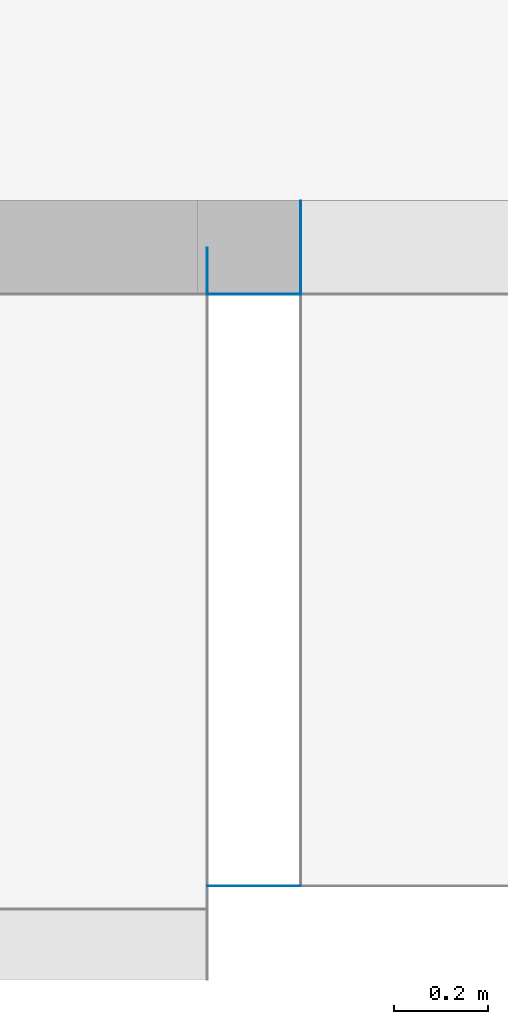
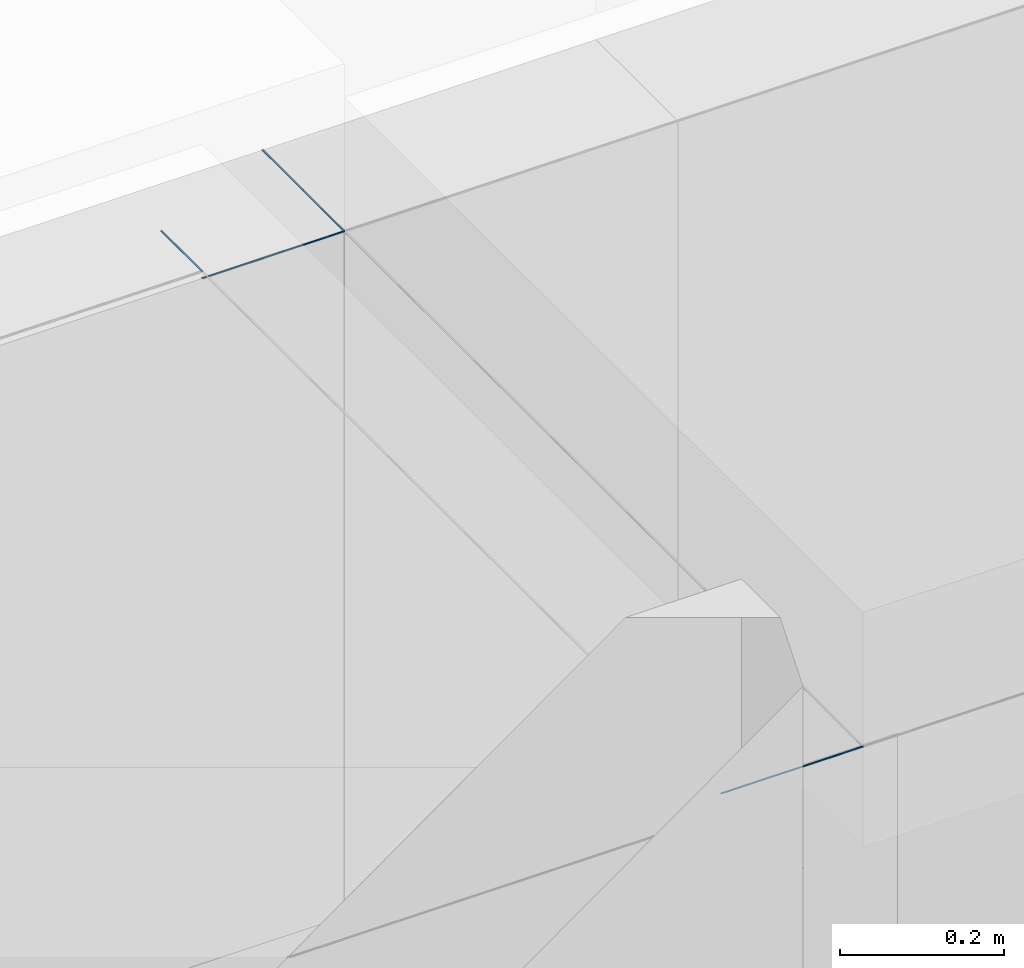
# One storey, part 3 of 17: 5 beams.
"""IFC2X3 building model written with IfcOpenShell, lengths in metres."""

from ifc_helpers import new_model, si_unit, direction, frame, origin_with_axes, place, context, subcontext, project, spatial, polyline, outline, extrude, material, type_object, element, save


model = new_model("IFC2X3")

# Units and contexts
model_context = context("Model", 3, precision=0.0001, world=origin_with_axes(), true_north=direction((0.0, 1.0)))
plan_context = context("Plan", 2, precision=0.0001, world=origin_with_axes(), true_north=direction((0.0, 1.0)))
body_context = subcontext(model_context, "Body", "Model", "MODEL_VIEW")
ifc_project = project(units=[si_unit("MASSUNIT", "GRAM", prefix="KILO"), si_unit("AREAUNIT", "SQUARE_METRE"), si_unit("LENGTHUNIT", "METRE"), si_unit("VOLUMEUNIT", "CUBIC_METRE")], contexts=[plan_context, model_context])

# Site, building, storey
site_placement = place(None, origin_with_axes())
site = spatial("IfcSite", under=ifc_project, at=site_placement, Name="$", CompositionType="ELEMENT")
building_placement = place(site_placement, origin_with_axes())
building = spatial("IfcBuilding", under=site, at=building_placement, Name="Classeur ENS Ensemble", CompositionType="ELEMENT")
storey_placement = place(building_placement, frame((-20.30778888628, -1.812671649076, 0.0), z_axis=(0.0, 0.0, 1.0), x_axis=(1.0, 0.0, 0.0)))
storey = spatial("IfcBuildingStorey", under=building, at=storey_placement, Name="001 RdC", CompositionType="ELEMENT", Elevation=0.0)

# Beams
ifc_material = material(Name="Default material")
beam_type = type_object("IfcBeamType", PredefinedType="BEAM")
beam_1_placement = place(storey_placement, frame((23.6132953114, -11.66732835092, 3.059999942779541), z_axis=(0.0, 0.0, 1.0), x_axis=(0.0, 1.0, 0.0)))
element("IfcBeam", 1, at=beam_1_placement, inside=storey, type_object=beam_type, material=ifc_material, Name="poutre fictive 306", context=body_context, shape_type="SweptSolid", held_by="IfcProductRepresentation", body=[
    extrude(outline(polyline([(0.0, 0.001000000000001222), (0.0, 0.001000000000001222), (0.0, 0.001000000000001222), (0.09999999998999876, 0.001000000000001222), (0.09999999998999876, 0.001000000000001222), (0.09999999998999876, 0.001000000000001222), (0.09999999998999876, -0.0009999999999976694), (0.09999999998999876, -0.0009999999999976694), (0.09999999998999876, -0.0009999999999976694), (0.0, -0.0009999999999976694), (0.0, -0.0009999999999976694), (0.0, -0.0009999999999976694), (0.0, 0.001000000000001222)])), origin_with_axes(), (0.0, 0.0, 1.0), 0.001),
])
beam_2_placement = place(storey_placement, frame((23.8132953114, -11.66732835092, 3.049999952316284), z_axis=(0.0, 0.0, 1.0), x_axis=(0.0, 1.0, 0.0)))
element("IfcBeam", 2, at=beam_2_placement, inside=storey, type_object=beam_type, material=ifc_material, Name="poutre fictive 305", context=body_context, shape_type="SweptSolid", held_by="IfcProductRepresentation", body=[
    extrude(outline(polyline([(0.0, 0.001000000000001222), (0.0, 0.001000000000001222), (0.0, 0.001000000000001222), (0.09999999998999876, 0.001000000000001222), (0.09999999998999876, 0.001000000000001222), (0.09999999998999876, 0.001000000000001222), (0.09999999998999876, -0.001000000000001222), (0.09999999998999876, -0.001000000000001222), (0.09999999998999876, -0.001000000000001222), (0.0, -0.001000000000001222), (0.0, -0.001000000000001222), (0.0, -0.001000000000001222), (0.0, 0.001000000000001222)])), origin_with_axes(), (0.0, 0.0, 1.0), 0.001),
])
beam_3_placement = place(storey_placement, frame((23.6132953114, -12.93232835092, 3.049999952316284), z_axis=(0.0, 0.0, 1.0), x_axis=(1.0, 0.0, 0.0)))
element("IfcBeam", 3, at=beam_3_placement, inside=storey, type_object=beam_type, material=ifc_material, Name="poutre fictive 305", context=body_context, shape_type="SweptSolid", held_by="IfcProductRepresentation", body=[
    extrude(outline(polyline([(0.0, 0.0009999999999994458), (0.0, 0.0009999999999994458), (0.0, 0.0009999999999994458), (0.1999999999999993, 0.0009999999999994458), (0.1999999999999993, 0.0009999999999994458), (0.1999999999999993, 0.0009999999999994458), (0.1999999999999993, -0.0009999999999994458), (0.1999999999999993, -0.0009999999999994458), (0.1999999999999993, -0.0009999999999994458), (0.0, -0.0009999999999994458), (0.0, -0.0009999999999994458), (0.0, -0.0009999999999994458), (0.0, 0.0009999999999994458)])), origin_with_axes(), (0.0, 0.0, 1.0), 0.001),
])
beam_4_placement = place(storey_placement, frame((23.6132953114, -11.66732835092, 3.049999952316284), z_axis=(0.0, 0.0, 1.0), x_axis=(1.0, 0.0, 0.0)))
element("IfcBeam", 4, at=beam_4_placement, inside=storey, type_object=beam_type, material=ifc_material, Name="poutre fictive 305", context=body_context, shape_type="SweptSolid", held_by="IfcProductRepresentation", body=[
    extrude(outline(polyline([(0.0, 0.0009999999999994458), (0.0, 0.0009999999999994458), (0.0, 0.0009999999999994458), (0.1999999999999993, 0.0009999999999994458), (0.1999999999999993, 0.0009999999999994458), (0.1999999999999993, 0.0009999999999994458), (0.1999999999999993, -0.001000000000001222), (0.1999999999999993, -0.001000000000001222), (0.1999999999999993, -0.001000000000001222), (0.0, -0.001000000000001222), (0.0, -0.001000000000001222), (0.0, -0.001000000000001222), (0.0, 0.0009999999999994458)])), origin_with_axes(), (0.0, 0.0, 1.0), 0.001),
])
beam_5_placement = place(storey_placement, frame((23.8132953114, -11.56732835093, 3.049999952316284), z_axis=(0.0, 0.0, 1.0), x_axis=(0.0, 1.0, 0.0)))
element("IfcBeam", 5, at=beam_5_placement, inside=storey, type_object=beam_type, material=ifc_material, Name="poutre fictive 305", context=body_context, shape_type="SweptSolid", held_by="IfcProductRepresentation", body=[
    extrude(outline(polyline([(0.0, 0.001000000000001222), (0.0, 0.001000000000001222), (0.0, 0.001000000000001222), (0.1000000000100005, 0.001000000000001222), (0.1000000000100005, 0.001000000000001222), (0.1000000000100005, 0.001000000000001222), (0.1000000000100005, -0.001000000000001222), (0.1000000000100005, -0.001000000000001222), (0.1000000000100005, -0.001000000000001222), (0.0, -0.001000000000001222), (0.0, -0.001000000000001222), (0.0, -0.001000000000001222), (0.0, 0.001000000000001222)])), origin_with_axes(), (0.0, 0.0, 1.0), 0.001),
])

save(model, "model.ifc")
